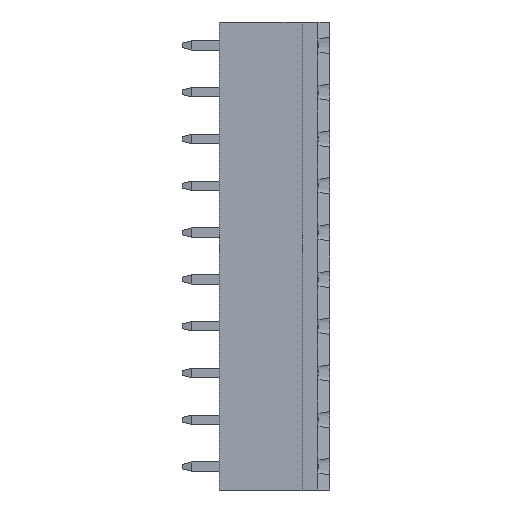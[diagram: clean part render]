
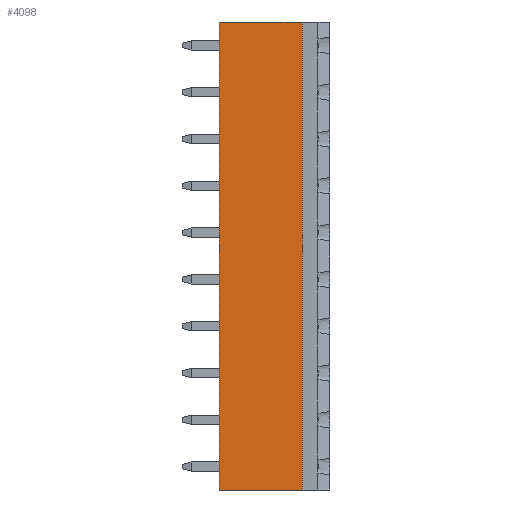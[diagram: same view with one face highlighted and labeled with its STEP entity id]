
A CAD part, left-side view. The second image highlights one B-rep face of the part: STEP entity #4098.
In plain terms, the highlighted planar face has unit normal (-1, 0, 0).
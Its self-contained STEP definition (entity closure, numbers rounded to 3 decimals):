
#451 = CARTESIAN_POINT ( 'NONE',  ( -3.9, 3., 50.8 ) ) ;
#1171 = VERTEX_POINT ( 'NONE', #451 ) ;
#2175 = DIRECTION ( 'NONE',  ( 0., 0., -1. ) ) ;
#2324 = CARTESIAN_POINT ( 'NONE',  ( -3.9, 12., 0. ) ) ;
#2632 = VECTOR ( 'NONE', #10145, 1000. ) ;
#4098 = ADVANCED_FACE ( 'NONE', ( #9601 ), #15482, .T. ) ;
#5871 = ORIENTED_EDGE ( 'NONE', *, *, #10834, .F. ) ;
#5969 = CARTESIAN_POINT ( 'NONE',  ( -3.9, 12., 0. ) ) ;
#6302 = CARTESIAN_POINT ( 'NONE',  ( -3.9, 3., 0. ) ) ;
#6743 = ORIENTED_EDGE ( 'NONE', *, *, #23651, .T. ) ;
#6774 = VECTOR ( 'NONE', #19660, 1000. ) ;
#7119 = LINE ( 'NONE', #20674, #13239 ) ;
#7747 = EDGE_CURVE ( 'NONE', #10974, #1171, #16088, .T. ) ;
#8642 = DIRECTION ( 'NONE',  ( 0., 0., 1. ) ) ;
#9601 = FACE_OUTER_BOUND ( 'NONE', #12253, .T. ) ;
#10145 = DIRECTION ( 'NONE',  ( 0., -1., 0. ) ) ;
#10464 = AXIS2_PLACEMENT_3D ( 'NONE', #2324, #17524, #11884 ) ;
#10834 = EDGE_CURVE ( 'NONE', #18761, #10974, #7119, .T. ) ;
#10974 = VERTEX_POINT ( 'NONE', #19126 ) ;
#11884 = DIRECTION ( 'NONE',  ( 0., 0., 1. ) ) ;
#12253 = EDGE_LOOP ( 'NONE', ( #6743, #24954, #17747, #5871 ) ) ;
#12515 = VECTOR ( 'NONE', #2175, 1000. ) ;
#13239 = VECTOR ( 'NONE', #8642, 1000. ) ;
#13434 = CARTESIAN_POINT ( 'NONE',  ( -3.9, 3., 50.8 ) ) ;
#15482 = PLANE ( 'NONE',  #10464 ) ;
#15579 = CARTESIAN_POINT ( 'NONE',  ( -3.9, 12., 50.8 ) ) ;
#16088 = LINE ( 'NONE', #15579, #6774 ) ;
#17524 = DIRECTION ( 'NONE',  ( -1., 0., 0. ) ) ;
#17618 = LINE ( 'NONE', #13434, #12515 ) ;
#17702 = EDGE_CURVE ( 'NONE', #1171, #23661, #17618, .T. ) ;
#17747 = ORIENTED_EDGE ( 'NONE', *, *, #7747, .F. ) ;
#18761 = VERTEX_POINT ( 'NONE', #5969 ) ;
#19126 = CARTESIAN_POINT ( 'NONE',  ( -3.9, 12., 50.8 ) ) ;
#19660 = DIRECTION ( 'NONE',  ( 0., -1., 0. ) ) ;
#20674 = CARTESIAN_POINT ( 'NONE',  ( -3.9, 12., 0. ) ) ;
#22018 = CARTESIAN_POINT ( 'NONE',  ( -3.9, 12., 0. ) ) ;
#23651 = EDGE_CURVE ( 'NONE', #18761, #23661, #23792, .T. ) ;
#23661 = VERTEX_POINT ( 'NONE', #6302 ) ;
#23792 = LINE ( 'NONE', #22018, #2632 ) ;
#24954 = ORIENTED_EDGE ( 'NONE', *, *, #17702, .F. ) ;
